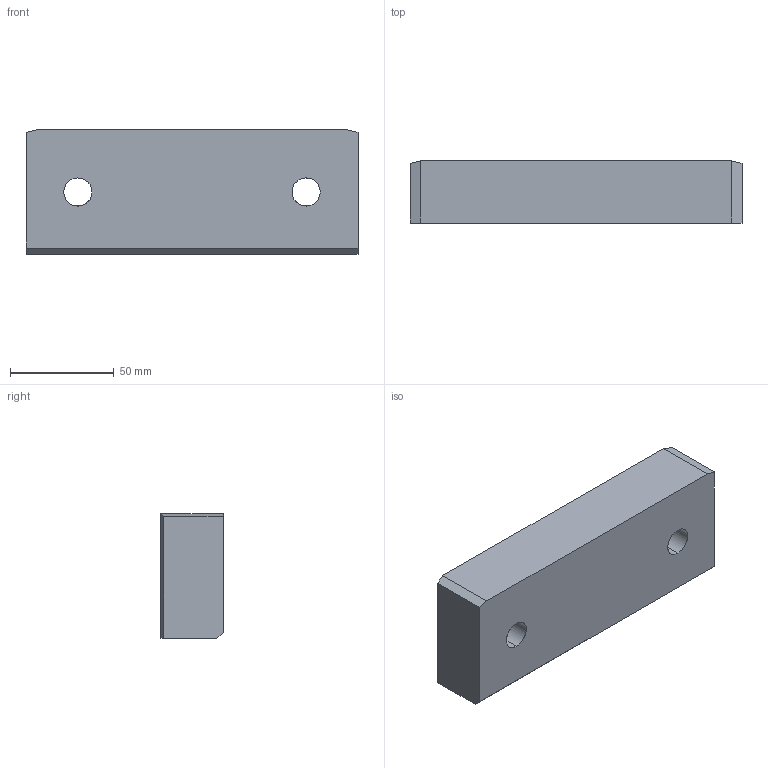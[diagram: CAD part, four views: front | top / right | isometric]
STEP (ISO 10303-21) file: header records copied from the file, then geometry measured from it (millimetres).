
FILE_DESCRIPTION(('CATIA V5 STEP Exchange'),'2;1');
FILE_NAME('C:\Users\Utente\Desktop\3D files A609\A609-030-160.stp','2020-04-13T19:47:33+00:00',('none'),('none'),'CATIA Version 5 Release 20 GA (IN-10)','CATIA V5 STEP AP203','none');
FILE_SCHEMA(('CONFIG_CONTROL_DESIGN'));
Length unit declared in the file: millimetre
Products named in the file (1): Noname
Bounding box: 160 x 30 x 60 mm (x, y, z)
Surface area: 34379.8 mm2 (no closed solid volume)
Topology: 0 solids, 17 shells, 21 faces, 90 edges, 82 vertices
Faces by surface type: extrusion 13, cylinder 8
Entity records: 1169 total; most frequent: CARTESIAN_POINT 441, ORIENTED_EDGE 98, DIRECTION 93, EDGE_CURVE 90, VERTEX_POINT 82, VECTOR 61, LINE 48, B_SPLINE_CURVE_WITH_KNOTS 39
